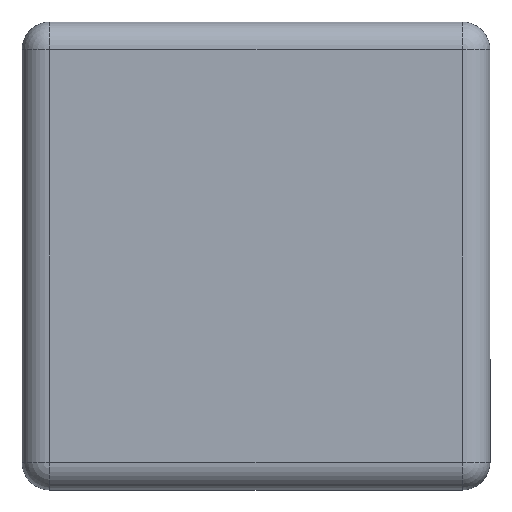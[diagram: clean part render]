
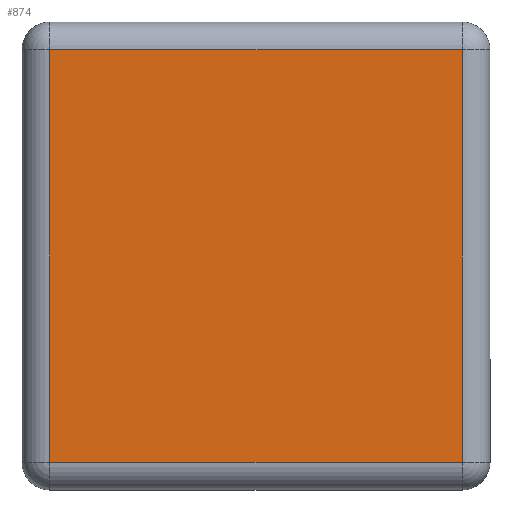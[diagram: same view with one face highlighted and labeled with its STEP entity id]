
A CAD part, front view. The second image highlights one B-rep face of the part: STEP entity #874.
In plain terms, the highlighted planar face has unit normal (0, -1, 0).
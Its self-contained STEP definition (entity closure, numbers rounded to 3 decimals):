
#39 = ORIENTED_EDGE ( 'NONE', *, *, #1845, .T. ) ;
#145 = VECTOR ( 'NONE', #1372, 1000. ) ;
#151 = DIRECTION ( 'NONE',  ( 0., 0., 1. ) ) ;
#483 = DIRECTION ( 'NONE',  ( 1., 0., 0. ) ) ;
#514 = ORIENTED_EDGE ( 'NONE', *, *, #3189, .T. ) ;
#567 = CARTESIAN_POINT ( 'NONE',  ( 11.2, -9.8, 11.2 ) ) ;
#575 = VECTOR ( 'NONE', #483, 1000. ) ;
#601 = DIRECTION ( 'NONE',  ( -1., 0., 0. ) ) ;
#659 = EDGE_CURVE ( 'NONE', #1827, #3093, #2865, .T. ) ;
#733 = DIRECTION ( 'NONE',  ( 0., 1., 0. ) ) ;
#874 = ADVANCED_FACE ( 'NONE', ( #1944 ), #1484, .F. ) ;
#1007 = LINE ( 'NONE', #1559, #1363 ) ;
#1173 = EDGE_LOOP ( 'NONE', ( #514, #39, #1280, #1630 ) ) ;
#1280 = ORIENTED_EDGE ( 'NONE', *, *, #659, .T. ) ;
#1281 = CARTESIAN_POINT ( 'NONE',  ( -11.2, -9.8, -11.2 ) ) ;
#1285 = VERTEX_POINT ( 'NONE', #1707 ) ;
#1363 = VECTOR ( 'NONE', #3109, 1000. ) ;
#1372 = DIRECTION ( 'NONE',  ( 0., 0., 1. ) ) ;
#1382 = LINE ( 'NONE', #2446, #2637 ) ;
#1484 = PLANE ( 'NONE',  #1581 ) ;
#1559 = CARTESIAN_POINT ( 'NONE',  ( -11.2, -9.8, -11.2 ) ) ;
#1581 = AXIS2_PLACEMENT_3D ( 'NONE', #1281, #733, #151 ) ;
#1630 = ORIENTED_EDGE ( 'NONE', *, *, #1954, .T. ) ;
#1707 = CARTESIAN_POINT ( 'NONE',  ( -11.2, -9.8, 11.2 ) ) ;
#1827 = VERTEX_POINT ( 'NONE', #2327 ) ;
#1845 = EDGE_CURVE ( 'NONE', #1285, #1827, #1007, .T. ) ;
#1898 = LINE ( 'NONE', #2970, #145 ) ;
#1944 = FACE_OUTER_BOUND ( 'NONE', #1173, .T. ) ;
#1954 = EDGE_CURVE ( 'NONE', #3093, #2193, #1898, .T. ) ;
#2154 = CARTESIAN_POINT ( 'NONE',  ( 11.2, -9.8, -11.2 ) ) ;
#2193 = VERTEX_POINT ( 'NONE', #567 ) ;
#2327 = CARTESIAN_POINT ( 'NONE',  ( -11.2, -9.8, -11.2 ) ) ;
#2446 = CARTESIAN_POINT ( 'NONE',  ( -11.2, -9.8, 11.2 ) ) ;
#2637 = VECTOR ( 'NONE', #601, 1000. ) ;
#2865 = LINE ( 'NONE', #3130, #575 ) ;
#2970 = CARTESIAN_POINT ( 'NONE',  ( 11.2, -9.8, 11.2 ) ) ;
#3093 = VERTEX_POINT ( 'NONE', #2154 ) ;
#3109 = DIRECTION ( 'NONE',  ( 0., 0., -1. ) ) ;
#3130 = CARTESIAN_POINT ( 'NONE',  ( 11.2, -9.8, -11.2 ) ) ;
#3189 = EDGE_CURVE ( 'NONE', #2193, #1285, #1382, .T. ) ;
